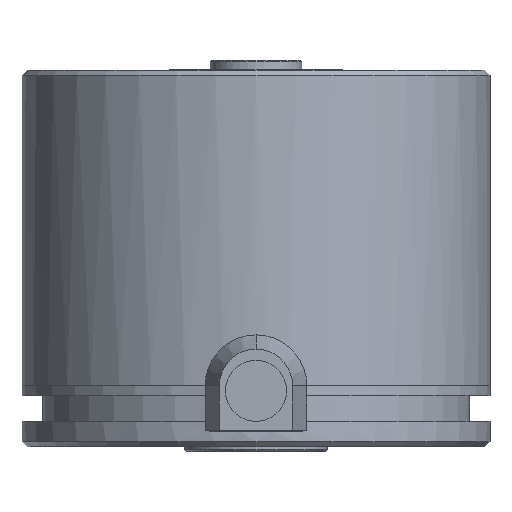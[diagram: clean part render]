
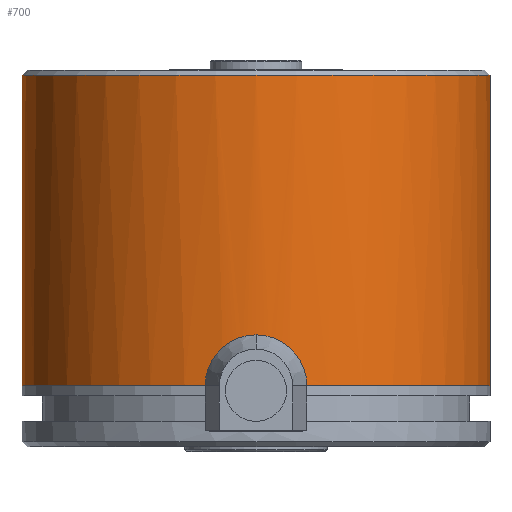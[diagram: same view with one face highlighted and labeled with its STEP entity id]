
A CAD part, front view. The second image highlights one B-rep face of the part: STEP entity #700.
In plain terms, the highlighted cylindrical face has radius 23 mm (diameter 46 mm), a partial arc.
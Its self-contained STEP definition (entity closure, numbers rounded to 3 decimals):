
#700=ADVANCED_FACE('',(#973),#974,.T.);
#973=FACE_OUTER_BOUND('',#1312,.T.);
#974=CYLINDRICAL_SURFACE('',#1313,23.0);
#1312=EDGE_LOOP('',(#2149,#2150,#2151,#2152,#2153,#2154,#2155));
#1313=AXIS2_PLACEMENT_3D('',#2156,#2157,#2158);
#2149=ORIENTED_EDGE('',*,*,#2783,.F.);
#2150=ORIENTED_EDGE('',*,*,#2784,.T.);
#2151=ORIENTED_EDGE('',*,*,#2785,.F.);
#2152=ORIENTED_EDGE('',*,*,#2786,.F.);
#2153=ORIENTED_EDGE('',*,*,#2787,.T.);
#2154=ORIENTED_EDGE('',*,*,#2788,.F.);
#2155=ORIENTED_EDGE('',*,*,#2773,.T.);
#2156=CARTESIAN_POINT('',(0.,0.0,37.0));
#2157=DIRECTION('',(0.0,-0.0,1.0));
#2158=DIRECTION('',(-1.0,0.0,0.0));
#2773=EDGE_CURVE('',#3248,#3245,#3249,.F.);
#2783=EDGE_CURVE('',#3267,#3245,#3268,.T.);
#2784=EDGE_CURVE('',#3267,#3269,#3270,.T.);
#2785=EDGE_CURVE('',#3271,#3269,#3272,.T.);
#2786=EDGE_CURVE('',#3273,#3271,#3274,.T.);
#2787=EDGE_CURVE('',#3273,#3275,#3276,.T.);
#2788=EDGE_CURVE('',#3248,#3275,#3277,.T.);
#3245=VERTEX_POINT('',#3881);
#3248=VERTEX_POINT('',#3885);
#3249=CIRCLE('',#3886,23.0);
#3267=VERTEX_POINT('',#3973);
#3268=LINE('',#3974,#3975);
#3269=VERTEX_POINT('',#3976);
#3270=CIRCLE('',#3977,23.0);
#3271=VERTEX_POINT('',#3978);
#3272=B_SPLINE_CURVE_WITH_KNOTS('',3,(#3979,#3980,#3981,#3982,#3983,#3984,#3985,#3986,#3987,#3988,#3989,#3990,#3991,#3992,#3993,#3994,#3995,#3996,#3997,#3998,#3999,#4000,#4001,#4002,#4003,#4004,#4005,#4006,#4007,#4008,#4009,#4010,#4011,#4012),.UNSPECIFIED.,.F.,.F.,(4,2,2,2,2,2,2,2,2,2,2,2,2,2,2,2,4),(0.0,0.001,0.001,0.002,0.003,0.003,0.004,0.005,0.005,0.006,0.007,0.008,0.008,0.009,0.01,0.01,0.011),.UNSPECIFIED.);
#3273=VERTEX_POINT('',#4013);
#3274=B_SPLINE_CURVE_WITH_KNOTS('',3,(#4014,#4015,#4016,#4017,#4018,#4019,#4020,#4021,#4022,#4023,#4024,#4025,#4026,#4027,#4028,#4029,#4030,#4031,#4032,#4033,#4034,#4035,#4036,#4037,#4038,#4039,#4040,#4041,#4042,#4043,#4044,#4045,#4046,#4047),.UNSPECIFIED.,.F.,.F.,(4,2,2,2,2,2,2,2,2,2,2,2,2,2,2,2,4),(0.0,0.001,0.001,0.002,0.003,0.003,0.004,0.005,0.005,0.006,0.007,0.008,0.008,0.009,0.01,0.01,0.011),.UNSPECIFIED.);
#3275=VERTEX_POINT('',#4048);
#3276=CIRCLE('',#4049,23.0);
#3277=LINE('',#4050,#4051);
#3881=CARTESIAN_POINT('',(-23.0,0.,36.5));
#3885=CARTESIAN_POINT('',(23.0,0.0,36.5));
#3886=AXIS2_PLACEMENT_3D('',#4733,#4734,#4735);
#3973=CARTESIAN_POINT('',(-23.0,0.,6.0));
#3974=CARTESIAN_POINT('',(-23.0,0.,21.25));
#3975=VECTOR('',#4751,1.0);
#3976=CARTESIAN_POINT('',(-3.5,-22.732,6.0));
#3977=AXIS2_PLACEMENT_3D('',#4752,#4753,#4754);
#3978=CARTESIAN_POINT('',(0.,-23.,9.5));
#3979=CARTESIAN_POINT('',(3.5,-22.732,6.0));
#3980=CARTESIAN_POINT('',(3.5,-22.732,6.232));
#3981=CARTESIAN_POINT('',(3.477,-22.736,6.459));
#3982=CARTESIAN_POINT('',(3.388,-22.749,6.907));
#3983=CARTESIAN_POINT('',(3.321,-22.759,7.129));
#3984=CARTESIAN_POINT('',(3.145,-22.784,7.553));
#3985=CARTESIAN_POINT('',(3.037,-22.799,7.754));
#3986=CARTESIAN_POINT('',(2.784,-22.831,8.134));
#3987=CARTESIAN_POINT('',(2.636,-22.849,8.314));
#3988=CARTESIAN_POINT('',(2.314,-22.884,8.636));
#3989=CARTESIAN_POINT('',(2.138,-22.901,8.781));
#3990=CARTESIAN_POINT('',(1.755,-22.934,9.037));
#3991=CARTESIAN_POINT('',(1.552,-22.949,9.145));
#3992=CARTESIAN_POINT('',(1.131,-22.973,9.32));
#3993=CARTESIAN_POINT('',(0.91,-22.983,9.387));
#3994=CARTESIAN_POINT('',(0.459,-22.997,9.477));
#3995=CARTESIAN_POINT('',(0.231,-23.,9.5));
#3996=CARTESIAN_POINT('',(-0.226,-23.,9.5));
#3997=CARTESIAN_POINT('',(-0.458,-22.997,9.477));
#3998=CARTESIAN_POINT('',(-0.907,-22.983,9.388));
#3999=CARTESIAN_POINT('',(-1.126,-22.973,9.322));
#4000=CARTESIAN_POINT('',(-1.55,-22.949,9.147));
#4001=CARTESIAN_POINT('',(-1.754,-22.934,9.037));
#4002=CARTESIAN_POINT('',(-2.133,-22.902,8.784));
#4003=CARTESIAN_POINT('',(-2.31,-22.884,8.639));
#4004=CARTESIAN_POINT('',(-2.637,-22.849,8.313));
#4005=CARTESIAN_POINT('',(-2.781,-22.832,8.137));
#4006=CARTESIAN_POINT('',(-3.035,-22.799,7.759));
#4007=CARTESIAN_POINT('',(-3.145,-22.784,7.554));
#4008=CARTESIAN_POINT('',(-3.32,-22.759,7.131));
#4009=CARTESIAN_POINT('',(-3.387,-22.749,6.912));
#4010=CARTESIAN_POINT('',(-3.477,-22.736,6.463));
#4011=CARTESIAN_POINT('',(-3.5,-22.732,6.232));
#4012=CARTESIAN_POINT('',(-3.5,-22.732,6.0));
#4013=CARTESIAN_POINT('',(3.5,-22.732,6.0));
#4014=CARTESIAN_POINT('',(3.5,-22.732,6.0));
#4015=CARTESIAN_POINT('',(3.5,-22.732,6.232));
#4016=CARTESIAN_POINT('',(3.477,-22.736,6.459));
#4017=CARTESIAN_POINT('',(3.388,-22.749,6.907));
#4018=CARTESIAN_POINT('',(3.321,-22.759,7.129));
#4019=CARTESIAN_POINT('',(3.145,-22.784,7.553));
#4020=CARTESIAN_POINT('',(3.037,-22.799,7.754));
#4021=CARTESIAN_POINT('',(2.784,-22.831,8.134));
#4022=CARTESIAN_POINT('',(2.636,-22.849,8.314));
#4023=CARTESIAN_POINT('',(2.314,-22.884,8.636));
#4024=CARTESIAN_POINT('',(2.138,-22.901,8.781));
#4025=CARTESIAN_POINT('',(1.755,-22.934,9.037));
#4026=CARTESIAN_POINT('',(1.552,-22.949,9.145));
#4027=CARTESIAN_POINT('',(1.131,-22.973,9.32));
#4028=CARTESIAN_POINT('',(0.91,-22.983,9.387));
#4029=CARTESIAN_POINT('',(0.459,-22.997,9.477));
#4030=CARTESIAN_POINT('',(0.231,-23.,9.5));
#4031=CARTESIAN_POINT('',(-0.226,-23.,9.5));
#4032=CARTESIAN_POINT('',(-0.458,-22.997,9.477));
#4033=CARTESIAN_POINT('',(-0.907,-22.983,9.388));
#4034=CARTESIAN_POINT('',(-1.126,-22.973,9.322));
#4035=CARTESIAN_POINT('',(-1.55,-22.949,9.147));
#4036=CARTESIAN_POINT('',(-1.754,-22.934,9.037));
#4037=CARTESIAN_POINT('',(-2.133,-22.902,8.784));
#4038=CARTESIAN_POINT('',(-2.31,-22.884,8.639));
#4039=CARTESIAN_POINT('',(-2.637,-22.849,8.313));
#4040=CARTESIAN_POINT('',(-2.781,-22.832,8.137));
#4041=CARTESIAN_POINT('',(-3.035,-22.799,7.759));
#4042=CARTESIAN_POINT('',(-3.145,-22.784,7.554));
#4043=CARTESIAN_POINT('',(-3.32,-22.759,7.131));
#4044=CARTESIAN_POINT('',(-3.387,-22.749,6.912));
#4045=CARTESIAN_POINT('',(-3.477,-22.736,6.463));
#4046=CARTESIAN_POINT('',(-3.5,-22.732,6.232));
#4047=CARTESIAN_POINT('',(-3.5,-22.732,6.0));
#4048=CARTESIAN_POINT('',(23.0,0.,6.0));
#4049=AXIS2_PLACEMENT_3D('',#4755,#4756,#4757);
#4050=CARTESIAN_POINT('',(23.0,0.,21.25));
#4051=VECTOR('',#4758,1.0);
#4733=CARTESIAN_POINT('',(0.,0.0,36.5));
#4734=DIRECTION('',(0.0,0.0,1.0));
#4735=DIRECTION('',(1.0,0.0,0.0));
#4751=DIRECTION('',(0.0,-0.0,1.0));
#4752=CARTESIAN_POINT('',(0.,0.0,6.0));
#4753=DIRECTION('',(0.0,0.0,1.0));
#4754=DIRECTION('',(1.0,0.0,0.0));
#4755=CARTESIAN_POINT('',(0.,0.0,6.0));
#4756=DIRECTION('',(0.0,0.0,1.0));
#4757=DIRECTION('',(1.0,0.0,0.0));
#4758=DIRECTION('',(0.0,-0.0,-1.0));
